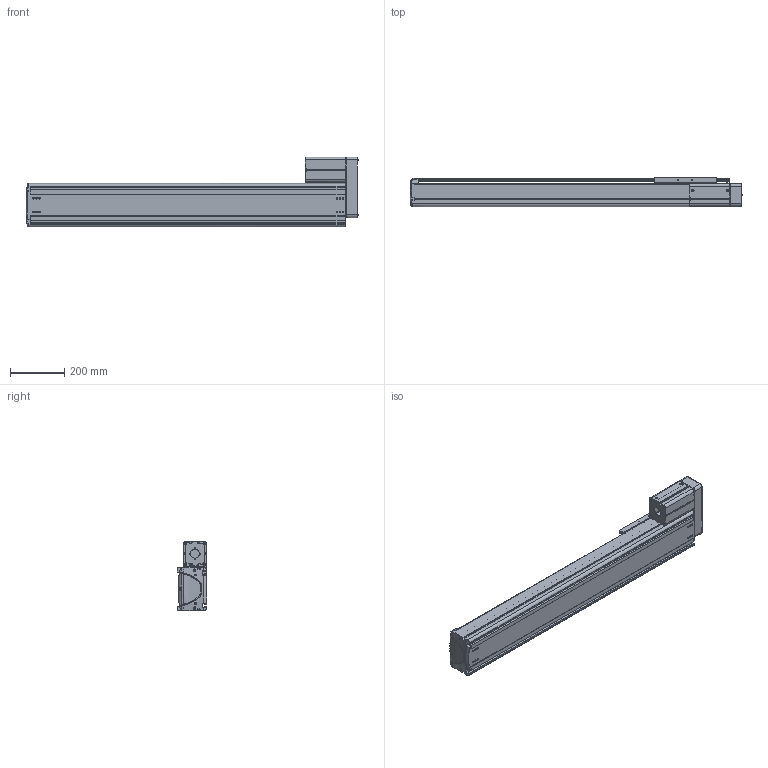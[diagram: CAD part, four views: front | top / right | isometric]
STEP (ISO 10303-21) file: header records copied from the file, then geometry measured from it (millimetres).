
FILE_DESCRIPTION((''),'2;1');
FILE_NAME('BE50F-UR-L_N-85_IGS_PRT','2017-06-18T',(' '),(''),'PRO/ENGINEER BY PARAMETRIC TECHNOLOGY CORPORATION, 2015030','PRO/ENGINEER BY PARAMETRIC TECHNOLOGY CORPORATION, 2015030','');
FILE_SCHEMA(('CONFIG_CONTROL_DESIGN'));
Length unit declared in the file: millimetre
Products named in the file (1): BE50F-UR-L_N-85_IGS_PRT
Bounding box: 1225.88 x 110 x 257 mm (x, y, z)
Volume: 5188169.6 mm3; surface area: 2120546.1 mm2
Topology: 6 solids, 138 shells, 2251 faces, 6164 edges, 4028 vertices
Faces by surface type: plane 1006, cylinder 971, cone 135, torus 59, bspline 48, sphere 32
Entity records: 74789 total; most frequent: CARTESIAN_POINT 17124, DIRECTION 12059, ORIENTED_EDGE 11724, EDGE_CURVE 6110, AXIS2_PLACEMENT_3D 4311, VERTEX_POINT 4022, VECTOR 3437, LINE 3437
